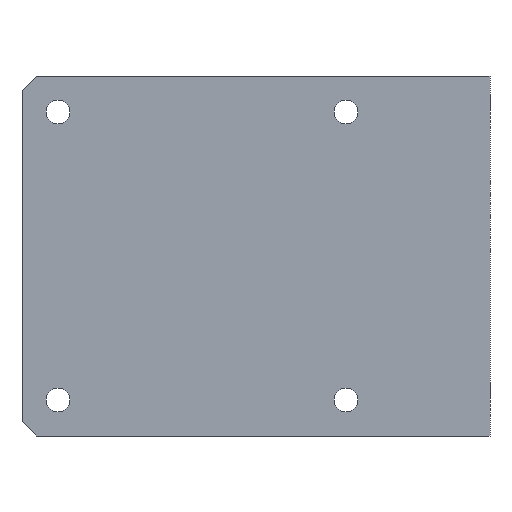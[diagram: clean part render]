
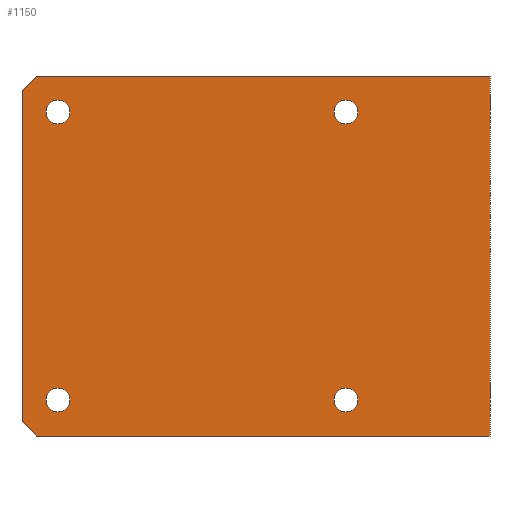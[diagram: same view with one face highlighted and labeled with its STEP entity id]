
A CAD part, left-side view. The second image highlights one B-rep face of the part: STEP entity #1150.
In plain terms, the highlighted planar face has unit normal (-1, 0, 0).
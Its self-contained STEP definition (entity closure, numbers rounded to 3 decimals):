
#5 = DIRECTION ( 'NONE',  ( 0., 0., -1. ) ) ;
#8 = DIRECTION ( 'NONE',  ( 0., 0., -1. ) ) ;
#15 = CARTESIAN_POINT ( 'NONE',  ( 0., 65., 25. ) ) ;
#17 = FACE_OUTER_BOUND ( 'NONE', #1026, .T. ) ;
#34 = VECTOR ( 'NONE', #959, 1000. ) ;
#52 = EDGE_CURVE ( 'NONE', #1013, #330, #545, .T. ) ;
#67 = AXIS2_PLACEMENT_3D ( 'NONE', #878, #513, #692 ) ;
#86 = CIRCLE ( 'NONE', #252, 1.65 ) ;
#89 = CARTESIAN_POINT ( 'NONE',  ( 0., 20., -21.65 ) ) ;
#98 = DIRECTION ( 'NONE',  ( 1., 0., 0. ) ) ;
#104 = CIRCLE ( 'NONE', #111, 1.65 ) ;
#111 = AXIS2_PLACEMENT_3D ( 'NONE', #855, #490, #315 ) ;
#123 = VERTEX_POINT ( 'NONE', #808 ) ;
#143 = EDGE_CURVE ( 'NONE', #1000, #302, #356, .T. ) ;
#159 = DIRECTION ( 'NONE',  ( 0., 0., -1. ) ) ;
#166 = EDGE_CURVE ( 'NONE', #720, #704, #1164, .T. ) ;
#189 = DIRECTION ( 'NONE',  ( 0., 0., -1. ) ) ;
#194 = CIRCLE ( 'NONE', #1159, 1.65 ) ;
#217 = PLANE ( 'NONE',  #927 ) ;
#220 = VECTOR ( 'NONE', #1090, 1000. ) ;
#238 = CARTESIAN_POINT ( 'NONE',  ( 0., 20., -20. ) ) ;
#246 = VERTEX_POINT ( 'NONE', #1119 ) ;
#252 = AXIS2_PLACEMENT_3D ( 'NONE', #551, #724, #5 ) ;
#254 = CARTESIAN_POINT ( 'NONE',  ( 0., 65., 25. ) ) ;
#267 = ORIENTED_EDGE ( 'NONE', *, *, #52, .F. ) ;
#272 = VECTOR ( 'NONE', #436, 1000. ) ;
#273 = LINE ( 'NONE', #519, #34 ) ;
#278 = CARTESIAN_POINT ( 'NONE',  ( 0., 60., 21.65 ) ) ;
#280 = ORIENTED_EDGE ( 'NONE', *, *, #769, .T. ) ;
#288 = DIRECTION ( 'NONE',  ( 1., 0., 0. ) ) ;
#300 = EDGE_LOOP ( 'NONE', ( #912, #881 ) ) ;
#302 = VERTEX_POINT ( 'NONE', #478 ) ;
#315 = DIRECTION ( 'NONE',  ( 0., 0., -1. ) ) ;
#320 = DIRECTION ( 'NONE',  ( 1., 0., 0. ) ) ;
#326 = ORIENTED_EDGE ( 'NONE', *, *, #885, .T. ) ;
#330 = VERTEX_POINT ( 'NONE', #841 ) ;
#343 = CARTESIAN_POINT ( 'NONE',  ( 0., 65., -23. ) ) ;
#350 = CARTESIAN_POINT ( 'NONE',  ( 0., 65., 23. ) ) ;
#356 = CIRCLE ( 'NONE', #1011, 1.65 ) ;
#387 = ORIENTED_EDGE ( 'NONE', *, *, #1029, .T. ) ;
#390 = DIRECTION ( 'NONE',  ( 0., 1., 0. ) ) ;
#394 = AXIS2_PLACEMENT_3D ( 'NONE', #437, #1162, #986 ) ;
#403 = ORIENTED_EDGE ( 'NONE', *, *, #1006, .T. ) ;
#409 = FACE_BOUND ( 'NONE', #1073, .T. ) ;
#425 = CIRCLE ( 'NONE', #1138, 1.65 ) ;
#435 = DIRECTION ( 'NONE',  ( 0., -1., 0. ) ) ;
#436 = DIRECTION ( 'NONE',  ( 0., -1., 0. ) ) ;
#437 = CARTESIAN_POINT ( 'NONE',  ( 0., 60., -20. ) ) ;
#438 = EDGE_CURVE ( 'NONE', #1139, #983, #104, .T. ) ;
#446 = CARTESIAN_POINT ( 'NONE',  ( 0., 60., -21.65 ) ) ;
#458 = DIRECTION ( 'NONE',  ( 1., 0., 0. ) ) ;
#478 = CARTESIAN_POINT ( 'NONE',  ( 0., 60., 18.35 ) ) ;
#490 = DIRECTION ( 'NONE',  ( 1., 0., 0. ) ) ;
#496 = FACE_BOUND ( 'NONE', #300, .T. ) ;
#510 = EDGE_CURVE ( 'NONE', #330, #1039, #273, .T. ) ;
#513 = DIRECTION ( 'NONE',  ( 1., 0., 0. ) ) ;
#519 = CARTESIAN_POINT ( 'NONE',  ( 0., 0., 25. ) ) ;
#524 = EDGE_CURVE ( 'NONE', #1097, #760, #672, .T. ) ;
#529 = VECTOR ( 'NONE', #553, 1000. ) ;
#535 = CARTESIAN_POINT ( 'NONE',  ( 0., 65., 23. ) ) ;
#545 = LINE ( 'NONE', #254, #1038 ) ;
#551 = CARTESIAN_POINT ( 'NONE',  ( 0., 20., 20. ) ) ;
#552 = ORIENTED_EDGE ( 'NONE', *, *, #524, .T. ) ;
#553 = DIRECTION ( 'NONE',  ( 0., 0., -1. ) ) ;
#566 = EDGE_CURVE ( 'NONE', #760, #1097, #716, .T. ) ;
#628 = CARTESIAN_POINT ( 'NONE',  ( 0., 20., 20. ) ) ;
#638 = EDGE_CURVE ( 'NONE', #302, #1000, #425, .T. ) ;
#658 = EDGE_CURVE ( 'NONE', #983, #1139, #1061, .T. ) ;
#672 = CIRCLE ( 'NONE', #1075, 1.65 ) ;
#676 = ORIENTED_EDGE ( 'NONE', *, *, #566, .T. ) ;
#682 = LINE ( 'NONE', #990, #220 ) ;
#690 = VERTEX_POINT ( 'NONE', #989 ) ;
#692 = DIRECTION ( 'NONE',  ( 0., 0., -1. ) ) ;
#694 = CARTESIAN_POINT ( 'NONE',  ( 0., 65., -25. ) ) ;
#704 = VERTEX_POINT ( 'NONE', #343 ) ;
#707 = EDGE_LOOP ( 'NONE', ( #1042, #868 ) ) ;
#710 = CARTESIAN_POINT ( 'NONE',  ( 0., 60., 20. ) ) ;
#716 = CIRCLE ( 'NONE', #67, 1.65 ) ;
#720 = VERTEX_POINT ( 'NONE', #535 ) ;
#724 = DIRECTION ( 'NONE',  ( 1., 0., 0. ) ) ;
#725 = DIRECTION ( 'NONE',  ( 0., 0., -1. ) ) ;
#730 = CARTESIAN_POINT ( 'NONE',  ( 0., 60., -18.35 ) ) ;
#751 = ORIENTED_EDGE ( 'NONE', *, *, #510, .F. ) ;
#760 = VERTEX_POINT ( 'NONE', #907 ) ;
#769 = EDGE_CURVE ( 'NONE', #123, #246, #86, .T. ) ;
#780 = VECTOR ( 'NONE', #1166, 1000. ) ;
#808 = CARTESIAN_POINT ( 'NONE',  ( 0., 20., 18.35 ) ) ;
#820 = CARTESIAN_POINT ( 'NONE',  ( 0., 63., 25. ) ) ;
#841 = CARTESIAN_POINT ( 'NONE',  ( 0., 0., 25. ) ) ;
#851 = ORIENTED_EDGE ( 'NONE', *, *, #919, .T. ) ;
#855 = CARTESIAN_POINT ( 'NONE',  ( 0., 60., -20. ) ) ;
#858 = FACE_BOUND ( 'NONE', #707, .T. ) ;
#868 = ORIENTED_EDGE ( 'NONE', *, *, #143, .T. ) ;
#878 = CARTESIAN_POINT ( 'NONE',  ( 0., 20., -20. ) ) ;
#881 = ORIENTED_EDGE ( 'NONE', *, *, #438, .T. ) ;
#884 = EDGE_LOOP ( 'NONE', ( #552, #676 ) ) ;
#885 = EDGE_CURVE ( 'NONE', #1013, #720, #1076, .T. ) ;
#907 = CARTESIAN_POINT ( 'NONE',  ( 0., 20., -18.35 ) ) ;
#912 = ORIENTED_EDGE ( 'NONE', *, *, #658, .T. ) ;
#919 = EDGE_CURVE ( 'NONE', #690, #1039, #991, .T. ) ;
#921 = CARTESIAN_POINT ( 'NONE',  ( 0., 65., 25. ) ) ;
#927 = AXIS2_PLACEMENT_3D ( 'NONE', #921, #288, #390 ) ;
#959 = DIRECTION ( 'NONE',  ( 0., 0., -1. ) ) ;
#983 = VERTEX_POINT ( 'NONE', #446 ) ;
#986 = DIRECTION ( 'NONE',  ( 0., 0., -1. ) ) ;
#989 = CARTESIAN_POINT ( 'NONE',  ( 0., 63., -25. ) ) ;
#990 = CARTESIAN_POINT ( 'NONE',  ( 0., 63., -25. ) ) ;
#991 = LINE ( 'NONE', #694, #272 ) ;
#993 = CARTESIAN_POINT ( 'NONE',  ( 0., 0., -25. ) ) ;
#1000 = VERTEX_POINT ( 'NONE', #278 ) ;
#1006 = EDGE_CURVE ( 'NONE', #704, #690, #682, .T. ) ;
#1007 = CARTESIAN_POINT ( 'NONE',  ( 0., 60., 20. ) ) ;
#1011 = AXIS2_PLACEMENT_3D ( 'NONE', #1007, #458, #725 ) ;
#1013 = VERTEX_POINT ( 'NONE', #820 ) ;
#1026 = EDGE_LOOP ( 'NONE', ( #1065, #403, #851, #751, #267, #326 ) ) ;
#1029 = EDGE_CURVE ( 'NONE', #246, #123, #194, .T. ) ;
#1038 = VECTOR ( 'NONE', #435, 1000. ) ;
#1039 = VERTEX_POINT ( 'NONE', #993 ) ;
#1042 = ORIENTED_EDGE ( 'NONE', *, *, #638, .T. ) ;
#1061 = CIRCLE ( 'NONE', #394, 1.65 ) ;
#1065 = ORIENTED_EDGE ( 'NONE', *, *, #166, .T. ) ;
#1073 = EDGE_LOOP ( 'NONE', ( #280, #387 ) ) ;
#1074 = FACE_BOUND ( 'NONE', #884, .T. ) ;
#1075 = AXIS2_PLACEMENT_3D ( 'NONE', #238, #320, #159 ) ;
#1076 = LINE ( 'NONE', #350, #780 ) ;
#1090 = DIRECTION ( 'NONE',  ( 0., -0.707, -0.707 ) ) ;
#1097 = VERTEX_POINT ( 'NONE', #89 ) ;
#1119 = CARTESIAN_POINT ( 'NONE',  ( 0., 20., 21.65 ) ) ;
#1138 = AXIS2_PLACEMENT_3D ( 'NONE', #710, #1157, #189 ) ;
#1139 = VERTEX_POINT ( 'NONE', #730 ) ;
#1150 = ADVANCED_FACE ( 'NONE', ( #496, #409, #1074, #858, #17 ), #217, .F. ) ;
#1157 = DIRECTION ( 'NONE',  ( 1., 0., 0. ) ) ;
#1159 = AXIS2_PLACEMENT_3D ( 'NONE', #628, #98, #8 ) ;
#1162 = DIRECTION ( 'NONE',  ( 1., 0., 0. ) ) ;
#1164 = LINE ( 'NONE', #15, #529 ) ;
#1166 = DIRECTION ( 'NONE',  ( 0., 0.707, -0.707 ) ) ;
